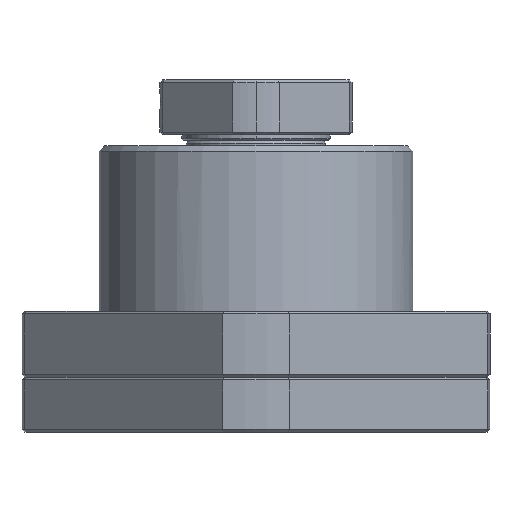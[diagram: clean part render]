
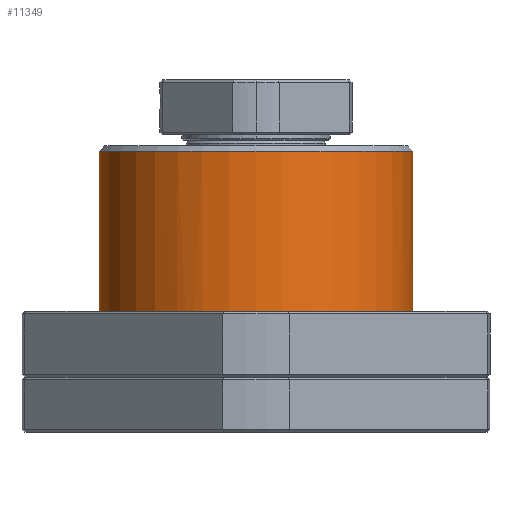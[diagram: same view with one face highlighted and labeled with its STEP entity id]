
A CAD part, front view. The second image highlights one B-rep face of the part: STEP entity #11349.
In plain terms, the highlighted cylindrical face has radius 28.5 mm (diameter 57 mm), a partial arc.
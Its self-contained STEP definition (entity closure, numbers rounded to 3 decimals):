
#28 = VECTOR ( 'NONE', #15837, 1000. ) ;
#29 = EDGE_CURVE ( 'NONE', #13553, #11126, #7598, .T. ) ;
#64 = CARTESIAN_POINT ( 'NONE',  ( 0., 0., 12. ) ) ;
#66 = CARTESIAN_POINT ( 'NONE',  ( 28.5, 0., 12. ) ) ;
#509 = CARTESIAN_POINT ( 'NONE',  ( 0., 0., 41. ) ) ;
#826 = AXIS2_PLACEMENT_3D ( 'NONE', #14819, #5915, #4645 ) ;
#1062 = LINE ( 'NONE', #9337, #14185 ) ;
#1075 = ORIENTED_EDGE ( 'NONE', *, *, #9760, .T. ) ;
#1194 = VERTEX_POINT ( 'NONE', #13560 ) ;
#1394 = CARTESIAN_POINT ( 'NONE',  ( 24.663, -14.282, 12. ) ) ;
#2525 = VERTEX_POINT ( 'NONE', #6164 ) ;
#3033 = DIRECTION ( 'NONE',  ( 0., 0., -1. ) ) ;
#3359 = EDGE_CURVE ( 'NONE', #12319, #15481, #13535, .T. ) ;
#3511 = AXIS2_PLACEMENT_3D ( 'NONE', #12604, #3696, #11317 ) ;
#3696 = DIRECTION ( 'NONE',  ( 0., 0., 1. ) ) ;
#3713 = ORIENTED_EDGE ( 'NONE', *, *, #10665, .T. ) ;
#4512 = DIRECTION ( 'NONE',  ( 0., 0., 1. ) ) ;
#4645 = DIRECTION ( 'NONE',  ( 1., 0., 0. ) ) ;
#4674 = CARTESIAN_POINT ( 'NONE',  ( -9.713, -26.794, 12. ) ) ;
#4815 = CYLINDRICAL_SURFACE ( 'NONE', #8687, 28.5 ) ;
#5468 = ORIENTED_EDGE ( 'NONE', *, *, #29, .T. ) ;
#5915 = DIRECTION ( 'NONE',  ( 0., 0., 1. ) ) ;
#5949 = DIRECTION ( 'NONE',  ( 1., 0., 0. ) ) ;
#6051 = ORIENTED_EDGE ( 'NONE', *, *, #3359, .F. ) ;
#6164 = CARTESIAN_POINT ( 'NONE',  ( -14.282, -24.663, 12. ) ) ;
#6611 = VERTEX_POINT ( 'NONE', #15904 ) ;
#7192 = EDGE_LOOP ( 'NONE', ( #6051, #3713, #1075, #5468, #10187, #9884, #15008, #11563 ) ) ;
#7598 = CIRCLE ( 'NONE', #11116, 28.5 ) ;
#8136 = AXIS2_PLACEMENT_3D ( 'NONE', #13032, #11526, #10288 ) ;
#8316 = CARTESIAN_POINT ( 'NONE',  ( -28.5, 0., 12. ) ) ;
#8373 = CIRCLE ( 'NONE', #8136, 28.5 ) ;
#8587 = VERTEX_POINT ( 'NONE', #66 ) ;
#8634 = DIRECTION ( 'NONE',  ( 0., 0., 1. ) ) ;
#8687 = AXIS2_PLACEMENT_3D ( 'NONE', #10301, #8634, #10178 ) ;
#8778 = CIRCLE ( 'NONE', #11418, 28.5 ) ;
#9007 = EDGE_CURVE ( 'NONE', #1194, #8587, #15972, .T. ) ;
#9076 = AXIS2_PLACEMENT_3D ( 'NONE', #509, #3033, #10662 ) ;
#9337 = CARTESIAN_POINT ( 'NONE',  ( 28.5, 0., 31.652 ) ) ;
#9533 = EDGE_CURVE ( 'NONE', #8587, #6611, #1062, .T. ) ;
#9760 = EDGE_CURVE ( 'NONE', #2525, #13553, #8778, .T. ) ;
#9884 = ORIENTED_EDGE ( 'NONE', *, *, #9007, .T. ) ;
#9997 = CIRCLE ( 'NONE', #9076, 28.5 ) ;
#10178 = DIRECTION ( 'NONE',  ( 1., 0., 0. ) ) ;
#10187 = ORIENTED_EDGE ( 'NONE', *, *, #11093, .T. ) ;
#10288 = DIRECTION ( 'NONE',  ( 1., 0., 0. ) ) ;
#10301 = CARTESIAN_POINT ( 'NONE',  ( 0., 0., 31.652 ) ) ;
#10662 = DIRECTION ( 'NONE',  ( -1., 0., 0. ) ) ;
#10665 = EDGE_CURVE ( 'NONE', #12319, #2525, #15373, .T. ) ;
#10685 = DIRECTION ( 'NONE',  ( 1., 0., 0. ) ) ;
#10764 = CARTESIAN_POINT ( 'NONE',  ( -28.5, 0., 31.652 ) ) ;
#11082 = CARTESIAN_POINT ( 'NONE',  ( 0., 0., 12. ) ) ;
#11093 = EDGE_CURVE ( 'NONE', #11126, #1194, #8373, .T. ) ;
#11116 = AXIS2_PLACEMENT_3D ( 'NONE', #64, #4512, #10685 ) ;
#11126 = VERTEX_POINT ( 'NONE', #1394 ) ;
#11317 = DIRECTION ( 'NONE',  ( 1., 0., 0. ) ) ;
#11349 = ADVANCED_FACE ( 'NONE', ( #11983 ), #4815, .T. ) ;
#11418 = AXIS2_PLACEMENT_3D ( 'NONE', #11082, #14846, #5949 ) ;
#11526 = DIRECTION ( 'NONE',  ( 0., 0., 1. ) ) ;
#11563 = ORIENTED_EDGE ( 'NONE', *, *, #16423, .T. ) ;
#11928 = DIRECTION ( 'NONE',  ( 0., 0., 1. ) ) ;
#11983 = FACE_OUTER_BOUND ( 'NONE', #7192, .T. ) ;
#12319 = VERTEX_POINT ( 'NONE', #8316 ) ;
#12604 = CARTESIAN_POINT ( 'NONE',  ( 0., 0., 12. ) ) ;
#13032 = CARTESIAN_POINT ( 'NONE',  ( 0., 0., 12. ) ) ;
#13535 = LINE ( 'NONE', #10764, #28 ) ;
#13553 = VERTEX_POINT ( 'NONE', #4674 ) ;
#13560 = CARTESIAN_POINT ( 'NONE',  ( 26.794, -9.713, 12. ) ) ;
#14185 = VECTOR ( 'NONE', #11928, 1000. ) ;
#14819 = CARTESIAN_POINT ( 'NONE',  ( 0., 0., 12. ) ) ;
#14846 = DIRECTION ( 'NONE',  ( 0., 0., 1. ) ) ;
#15008 = ORIENTED_EDGE ( 'NONE', *, *, #9533, .T. ) ;
#15373 = CIRCLE ( 'NONE', #826, 28.5 ) ;
#15481 = VERTEX_POINT ( 'NONE', #16353 ) ;
#15837 = DIRECTION ( 'NONE',  ( 0., 0., 1. ) ) ;
#15904 = CARTESIAN_POINT ( 'NONE',  ( 28.5, 0., 41. ) ) ;
#15972 = CIRCLE ( 'NONE', #3511, 28.5 ) ;
#16353 = CARTESIAN_POINT ( 'NONE',  ( -28.5, 0., 41. ) ) ;
#16423 = EDGE_CURVE ( 'NONE', #6611, #15481, #9997, .T. ) ;
